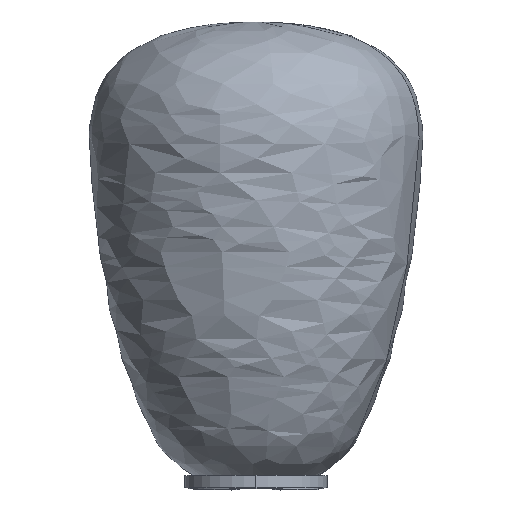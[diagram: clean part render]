
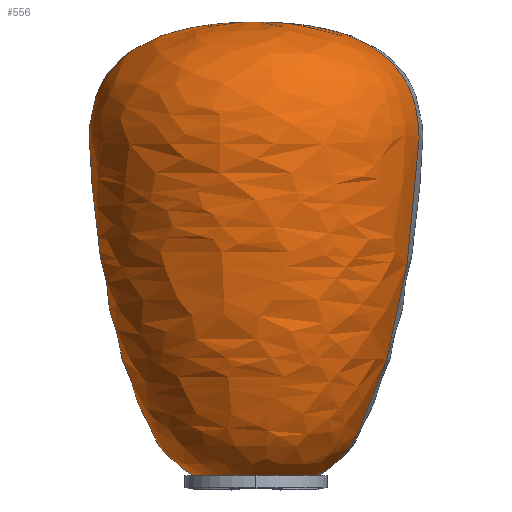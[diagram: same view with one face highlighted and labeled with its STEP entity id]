
A CAD part, top view. The second image highlights one B-rep face of the part: STEP entity #556.
In plain terms, the highlighted free-form (B-spline) face has degree [3, 3] with [8, 4] control points.
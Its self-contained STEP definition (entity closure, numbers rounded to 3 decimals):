
#9 = ORIENTED_EDGE ( 'NONE', *, *, #1725, .F. ) ;
#66 = CARTESIAN_POINT ( 'NONE',  ( 206.292, 370.204, 35.999 ) ) ;
#70 = CARTESIAN_POINT ( 'NONE',  ( 38.772, 42.495, 109.705 ) ) ;
#95 = CARTESIAN_POINT ( 'NONE',  ( 115., 370.204, 15.77 ) ) ;
#97 = CARTESIAN_POINT ( 'NONE',  ( 1.746, 200.314, -9.326 ) ) ;
#132 = VERTEX_POINT ( 'NONE', #95 ) ;
#161 = CARTESIAN_POINT ( 'NONE',  ( 23.708, 370.204, -4.459 ) ) ;
#227 = CARTESIAN_POINT ( 'NONE',  ( 62.18, 42.495, 4.066 ) ) ;
#249 = B_SPLINE_CURVE_WITH_KNOTS ( 'NONE', 3,
 ( #1832, #161, #503, #622, #1361, #1808, #1231, #1671 ),
 .UNSPECIFIED., .F., .F.,
 ( 4, 1, 1, 1, 1, 4 ),
 ( 0.125, 0.303, 0.379, 0.826, 0.893, 1. ),
 .UNSPECIFIED. ) ;
#251 = CARTESIAN_POINT ( 'NONE',  ( 167.82, 42.495, 27.474 ) ) ;
#254 = CARTESIAN_POINT ( 'NONE',  ( -16.75, 370.204, 178.124 ) ) ;
#266 = CARTESIAN_POINT ( 'NONE',  ( 183.206, 316.504, 287.896 ) ) ;
#333 = EDGE_LOOP ( 'NONE', ( #700, #1000, #9 ) ) ;
#369 = CARTESIAN_POINT ( 'NONE',  ( 115., 370.204, 15.77 ) ) ;
#386 = CARTESIAN_POINT ( 'NONE',  ( -7.491, 316.504, -11.373 ) ) ;
#405 = CARTESIAN_POINT ( 'NONE',  ( 115., 38.737, 15.77 ) ) ;
#503 = CARTESIAN_POINT ( 'NONE',  ( -7.491, 316.504, -11.373 ) ) ;
#525 = CARTESIAN_POINT ( 'NONE',  ( 47.433, 53.601, 0.798 ) ) ;
#534 = CARTESIAN_POINT ( 'NONE',  ( 69.949, 38.737, 5.787 ) ) ;
#556 = ADVANCED_FACE ( 'NONE', ( #1315 ), #1837, .F. ) ;
#582 = VERTEX_POINT ( 'NONE', #610 ) ;
#610 = CARTESIAN_POINT ( 'NONE',  ( 160.051, 38.737, 25.753 ) ) ;
#622 = CARTESIAN_POINT ( 'NONE',  ( 1.746, 200.314, -9.326 ) ) ;
#681 = CARTESIAN_POINT ( 'NONE',  ( 160.051, 38.737, 25.753 ) ) ;
#683 = CARTESIAN_POINT ( 'NONE',  ( 182.567, 53.601, 30.742 ) ) ;
#685 = VERTEX_POINT ( 'NONE', #785 ) ;
#700 = ORIENTED_EDGE ( 'NONE', *, *, #961, .F. ) ;
#707 = CARTESIAN_POINT ( 'NONE',  ( -33.954, 129.659, 199.324 ) ) ;
#715 = CARTESIAN_POINT ( 'NONE',  ( 218.212, 129.659, 38.641 ) ) ;
#718 = CARTESIAN_POINT ( 'NONE',  ( 172.471, 129.659, 245.065 ) ) ;
#785 = CARTESIAN_POINT ( 'NONE',  ( 69.949, 38.737, 5.787 ) ) ;
#833 = CARTESIAN_POINT ( 'NONE',  ( 160.051, 38.737, 25.753 ) ) ;
#855 = CARTESIAN_POINT ( 'NONE',  ( 228.254, 200.314, 40.866 ) ) ;
#869 = CARTESIAN_POINT ( 'NONE',  ( 178.062, 200.314, 267.373 ) ) ;
#880 = CARTESIAN_POINT ( 'NONE',  ( 152.623, 53.601, 165.876 ) ) ;
#911 = DIRECTION ( 'NONE',  ( 0.976, 0., 0.216 ) ) ;
#961 = EDGE_CURVE ( 'NONE', #132, #582, #1810, .T. ) ;
#977 = CARTESIAN_POINT ( 'NONE',  ( -61.777, 316.504, 233.61 ) ) ;
#996 = CARTESIAN_POINT ( 'NONE',  ( 237.491, 316.504, 42.913 ) ) ;
#1000 = ORIENTED_EDGE ( 'NONE', *, *, #1265, .T. ) ;
#1007 = CARTESIAN_POINT ( 'NONE',  ( 182.567, 53.601, 30.742 ) ) ;
#1010 = CARTESIAN_POINT ( 'NONE',  ( 165.833, 370.204, 218.582 ) ) ;
#1129 = CARTESIAN_POINT ( 'NONE',  ( 237.491, 316.504, 42.913 ) ) ;
#1231 = CARTESIAN_POINT ( 'NONE',  ( 62.18, 42.495, 4.066 ) ) ;
#1265 = EDGE_CURVE ( 'NONE', #132, #685, #249, .T. ) ;
#1270 = CARTESIAN_POINT ( 'NONE',  ( 144.411, 42.495, 133.114 ) ) ;
#1284 = CARTESIAN_POINT ( 'NONE',  ( 167.82, 42.495, 27.474 ) ) ;
#1303 = CARTESIAN_POINT ( 'NONE',  ( 11.788, 129.659, -7.101 ) ) ;
#1315 = FACE_OUTER_BOUND ( 'NONE', #333, .T. ) ;
#1350 = DIRECTION ( 'NONE',  ( 0., -1., 0. ) ) ;
#1361 = CARTESIAN_POINT ( 'NONE',  ( 11.788, 129.659, -7.101 ) ) ;
#1401 = CARTESIAN_POINT ( 'NONE',  ( 228.254, 200.314, 40.866 ) ) ;
#1416 = CARTESIAN_POINT ( 'NONE',  ( 140.085, 38.737, 115.855 ) ) ;
#1425 = CARTESIAN_POINT ( 'NONE',  ( 115., 370.204, 15.77 ) ) ;
#1450 = CARTESIAN_POINT ( 'NONE',  ( -48.445, 200.314, 217.181 ) ) ;
#1461 = CARTESIAN_POINT ( 'NONE',  ( 17.489, 53.601, 135.932 ) ) ;
#1562 = CARTESIAN_POINT ( 'NONE',  ( 218.212, 129.659, 38.641 ) ) ;
#1571 = CARTESIAN_POINT ( 'NONE',  ( 115., 370.204, 15.77 ) ) ;
#1579 = CARTESIAN_POINT ( 'NONE',  ( 23.708, 370.204, -4.459 ) ) ;
#1604 = CARTESIAN_POINT ( 'NONE',  ( 206.292, 370.204, 35.999 ) ) ;
#1622 = AXIS2_PLACEMENT_3D ( 'NONE', #405, #1350, #911 ) ;
#1671 = CARTESIAN_POINT ( 'NONE',  ( 69.949, 38.737, 5.787 ) ) ;
#1713 = CARTESIAN_POINT ( 'NONE',  ( 115., 370.204, 15.77 ) ) ;
#1725 = EDGE_CURVE ( 'NONE', #582, #685, #1933, .T. ) ;
#1808 = CARTESIAN_POINT ( 'NONE',  ( 47.433, 53.601, 0.798 ) ) ;
#1810 = B_SPLINE_CURVE_WITH_KNOTS ( 'NONE', 3,
 ( #369, #66, #996, #1401, #715, #1007, #251, #681 ),
 .UNSPECIFIED., .F., .F.,
 ( 4, 1, 1, 1, 1, 4 ),
 ( 0.125, 0.303, 0.379, 0.826, 0.893, 1. ),
 .UNSPECIFIED. ) ;
#1832 = CARTESIAN_POINT ( 'NONE',  ( 115., 370.204, 15.77 ) ) ;
#1837 =( BOUNDED_SURFACE ( )  B_SPLINE_SURFACE ( 3, 3, ( 
 ( #1713, #1571, #1893, #1425 ),
 ( #1604, #1010, #254, #1579 ),
 ( #1129, #266, #977, #386 ),
 ( #855, #869, #1450, #97 ),
 ( #1562, #718, #707, #1303 ),
 ( #683, #880, #1461, #525 ),
 ( #1284, #1270, #70, #227 ),
 ( #833, #1416, #1860, #534 ) ),
 .UNSPECIFIED., .F., .F., .F. ) 
 B_SPLINE_SURFACE_WITH_KNOTS ( ( 4, 1, 1, 1, 1, 4 ),
 ( 4, 4 ),
 ( 0.125, 0.303, 0.379, 0.826, 0.893, 1. ),
 ( 0., 1. ),
 .UNSPECIFIED. ) 
 GEOMETRIC_REPRESENTATION_ITEM ( )  RATIONAL_B_SPLINE_SURFACE ( (
 ( 1., 0.333, 0.333, 1.),
 ( 1., 0.333, 0.333, 1.),
 ( 1., 0.333, 0.333, 1.),
 ( 1., 0.333, 0.333, 1.),
 ( 1., 0.333, 0.333, 1.),
 ( 1., 0.333, 0.333, 1.),
 ( 1., 0.333, 0.333, 1.),
 ( 1., 0.333, 0.333, 1.) ) ) 
 REPRESENTATION_ITEM ( '' )  SURFACE ( )  );
#1860 = CARTESIAN_POINT ( 'NONE',  ( 49.983, 38.737, 95.89 ) ) ;
#1893 = CARTESIAN_POINT ( 'NONE',  ( 115., 370.204, 15.77 ) ) ;
#1933 = CIRCLE ( 'NONE', #1622, 46.144 ) ;
